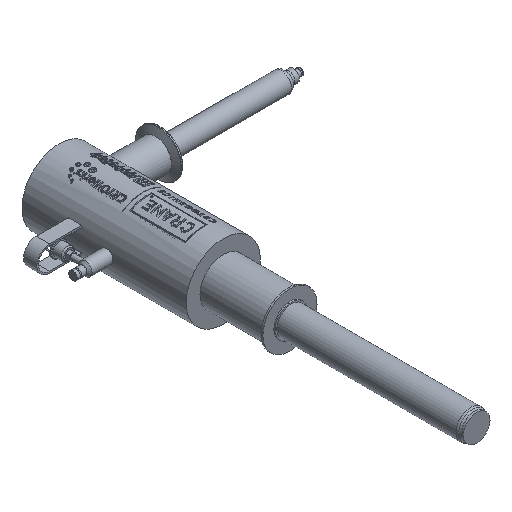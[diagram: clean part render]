
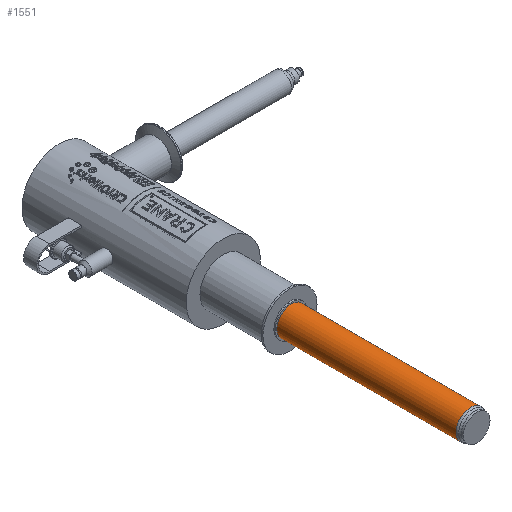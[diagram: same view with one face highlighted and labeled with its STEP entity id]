
A CAD part, isometric view. The second image highlights one B-rep face of the part: STEP entity #1551.
In plain terms, the highlighted cylindrical face has radius 27.61 mm (diameter 55.22 mm), a full revolution.
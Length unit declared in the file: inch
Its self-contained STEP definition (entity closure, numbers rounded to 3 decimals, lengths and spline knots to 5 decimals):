
#1551 = ADVANCED_FACE ( 'NONE', ( #27440, #5571 ), #27017, .T. ) ;
#1725 = CARTESIAN_POINT ( 'NONE',  ( 0., -0.1, 0. ) ) ;
#2479 = CARTESIAN_POINT ( 'NONE',  ( 1.087, -13.537, 0. ) ) ;
#5571 = FACE_OUTER_BOUND ( 'NONE', #18266, .T. ) ;
#5860 = DIRECTION ( 'NONE',  ( 0., -1., 0. ) ) ;
#5991 = CIRCLE ( 'NONE', #23205, 1.087 ) ;
#7987 = DIRECTION ( 'NONE',  ( 1., 0., 0. ) ) ;
#8125 = ORIENTED_EDGE ( 'NONE', *, *, #13383, .T. ) ;
#8416 = AXIS2_PLACEMENT_3D ( 'NONE', #22755, #5860, #7987 ) ;
#9612 = VERTEX_POINT ( 'NONE', #18272 ) ;
#11000 = ORIENTED_EDGE ( 'NONE', *, *, #23441, .F. ) ;
#12999 = EDGE_LOOP ( 'NONE', ( #8125 ) ) ;
#13383 = EDGE_CURVE ( 'NONE', #9612, #9612, #5991, .T. ) ;
#13419 = AXIS2_PLACEMENT_3D ( 'NONE', #20121, #17991, #26938 ) ;
#15067 = DIRECTION ( 'NONE',  ( 1., 0., 0. ) ) ;
#15399 = VERTEX_POINT ( 'NONE', #2479 ) ;
#17991 = DIRECTION ( 'NONE',  ( 0., -1., 0. ) ) ;
#18266 = EDGE_LOOP ( 'NONE', ( #11000 ) ) ;
#18272 = CARTESIAN_POINT ( 'NONE',  ( 1.087, -0.1, 0. ) ) ;
#20121 = CARTESIAN_POINT ( 'NONE',  ( 0., -13.537, 0. ) ) ;
#22755 = CARTESIAN_POINT ( 'NONE',  ( 0., -15.79265, 0. ) ) ;
#23205 = AXIS2_PLACEMENT_3D ( 'NONE', #1725, #27578, #15067 ) ;
#23441 = EDGE_CURVE ( 'NONE', #15399, #15399, #24295, .T. ) ;
#24295 = CIRCLE ( 'NONE', #13419, 1.087 ) ;
#26938 = DIRECTION ( 'NONE',  ( 1., 0., 0. ) ) ;
#27017 = CYLINDRICAL_SURFACE ( 'NONE', #8416, 1.087 ) ;
#27440 = FACE_OUTER_BOUND ( 'NONE', #12999, .T. ) ;
#27578 = DIRECTION ( 'NONE',  ( 0., -1., 0. ) ) ;
